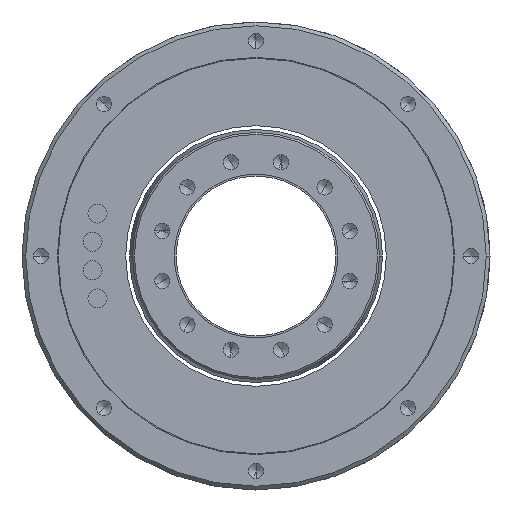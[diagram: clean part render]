
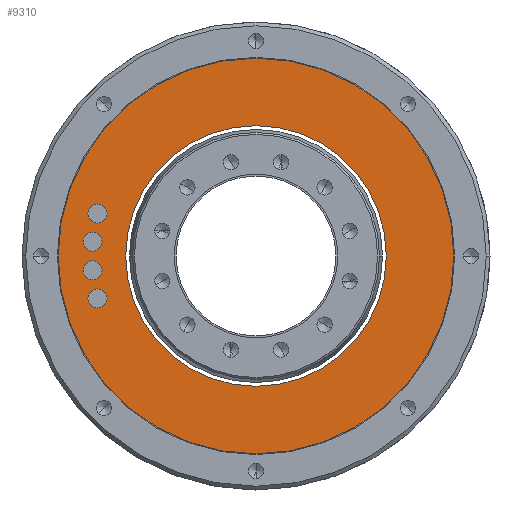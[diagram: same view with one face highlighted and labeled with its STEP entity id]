
A CAD part, left-side view. The second image highlights one B-rep face of the part: STEP entity #9310.
In plain terms, the highlighted planar face has unit normal (-1, 0, 0).
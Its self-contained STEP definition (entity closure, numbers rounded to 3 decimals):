
#8889=CARTESIAN_POINT('',(-93.,0.,0.));
#8890=DIRECTION('',(-1.,0.,0.));
#8891=DIRECTION('',(0.,1.,0.));
#8892=AXIS2_PLACEMENT_3D('',#8889,#8890,#8891);
#8894=CARTESIAN_POINT('',(-93.,0.,0.));
#8895=DIRECTION('',(1.,0.,0.));
#8896=DIRECTION('',(0.,1.,0.));
#8897=AXIS2_PLACEMENT_3D('',#8894,#8895,#8896);
#8899=CARTESIAN_POINT('',(-93.,0.,0.));
#8900=DIRECTION('',(-1.,0.,0.));
#8901=DIRECTION('',(0.,1.,0.));
#8902=AXIS2_PLACEMENT_3D('',#8899,#8900,#8901);
#8904=CARTESIAN_POINT('',(-93.,0.,0.));
#8905=DIRECTION('',(1.,0.,0.));
#8906=DIRECTION('',(0.,1.,0.));
#8907=AXIS2_PLACEMENT_3D('',#8904,#8905,#8906);
#8909=CARTESIAN_POINT('',(-93.,41.656,-11.162));
#8910=DIRECTION('',(-1.,0.,0.));
#8911=DIRECTION('',(0.,0.,1.));
#8912=AXIS2_PLACEMENT_3D('',#8909,#8910,#8911);
#8914=CARTESIAN_POINT('',(-93.,41.656,-11.162));
#8915=DIRECTION('',(-1.,0.,0.));
#8916=DIRECTION('',(0.,0.,-1.));
#8917=AXIS2_PLACEMENT_3D('',#8914,#8915,#8916);
#8919=CARTESIAN_POINT('',(-93.,41.656,11.162));
#8920=DIRECTION('',(-1.,0.,0.));
#8921=DIRECTION('',(0.,0.,1.));
#8922=AXIS2_PLACEMENT_3D('',#8919,#8920,#8921);
#8924=CARTESIAN_POINT('',(-93.,41.656,11.162));
#8925=DIRECTION('',(-1.,0.,0.));
#8926=DIRECTION('',(0.,0.,-1.));
#8927=AXIS2_PLACEMENT_3D('',#8924,#8925,#8926);
#8929=CARTESIAN_POINT('',(-93.,42.961,3.759));
#8930=DIRECTION('',(-1.,0.,0.));
#8931=DIRECTION('',(0.,0.,1.));
#8932=AXIS2_PLACEMENT_3D('',#8929,#8930,#8931);
#8934=CARTESIAN_POINT('',(-93.,42.961,3.759));
#8935=DIRECTION('',(-1.,0.,0.));
#8936=DIRECTION('',(0.,0.,-1.));
#8937=AXIS2_PLACEMENT_3D('',#8934,#8935,#8936);
#8939=CARTESIAN_POINT('',(-93.,42.961,-3.759));
#8940=DIRECTION('',(-1.,0.,0.));
#8941=DIRECTION('',(0.,0.,1.));
#8942=AXIS2_PLACEMENT_3D('',#8939,#8940,#8941);
#8944=CARTESIAN_POINT('',(-93.,42.961,-3.759));
#8945=DIRECTION('',(-1.,0.,0.));
#8946=DIRECTION('',(0.,0.,-1.));
#8947=AXIS2_PLACEMENT_3D('',#8944,#8945,#8946);
#9098=CARTESIAN_POINT('',(-93.,52.,0.));
#9100=VERTEX_POINT('',#9098);
#9101=CARTESIAN_POINT('',(-93.,34.25,0.));
#9103=VERTEX_POINT('',#9101);
#9118=CARTESIAN_POINT('',(-93.,-52.,0.));
#9120=VERTEX_POINT('',#9118);
#9121=CARTESIAN_POINT('',(-93.,-34.25,0.));
#9123=VERTEX_POINT('',#9121);
#9153=CARTESIAN_POINT('',(-93.,41.656,-8.662));
#9154=CARTESIAN_POINT('',(-93.,41.656,-13.662));
#9155=VERTEX_POINT('',#9153);
#9156=VERTEX_POINT('',#9154);
#9157=CARTESIAN_POINT('',(-93.,41.656,13.662));
#9158=CARTESIAN_POINT('',(-93.,41.656,8.662));
#9159=VERTEX_POINT('',#9157);
#9160=VERTEX_POINT('',#9158);
#9161=CARTESIAN_POINT('',(-93.,42.961,6.259));
#9162=CARTESIAN_POINT('',(-93.,42.961,1.259));
#9163=VERTEX_POINT('',#9161);
#9164=VERTEX_POINT('',#9162);
#9165=CARTESIAN_POINT('',(-93.,42.961,-1.259));
#9166=CARTESIAN_POINT('',(-93.,42.961,-6.259));
#9167=VERTEX_POINT('',#9165);
#9168=VERTEX_POINT('',#9166);
#9271=CARTESIAN_POINT('',(-93.,0.,0.));
#9272=DIRECTION('',(1.,0.,0.));
#9273=DIRECTION('',(0.,-1.,0.));
#9274=AXIS2_PLACEMENT_3D('',#9271,#9272,#9273);
#9275=PLANE('',#9274);
#9277=ORIENTED_EDGE('',*,*,#9276,.F.);
#9279=ORIENTED_EDGE('',*,*,#9278,.T.);
#9280=EDGE_LOOP('',(#9277,#9279));
#9281=FACE_OUTER_BOUND('',#9280,.F.);
#9282=ORIENTED_EDGE('',*,*,#9264,.F.);
#9283=ORIENTED_EDGE('',*,*,#9253,.T.);
#9284=EDGE_LOOP('',(#9282,#9283));
#9285=FACE_BOUND('',#9284,.F.);
#9287=ORIENTED_EDGE('',*,*,#9286,.T.);
#9289=ORIENTED_EDGE('',*,*,#9288,.T.);
#9290=EDGE_LOOP('',(#9287,#9289));
#9291=FACE_BOUND('',#9290,.F.);
#9293=ORIENTED_EDGE('',*,*,#9292,.T.);
#9295=ORIENTED_EDGE('',*,*,#9294,.T.);
#9296=EDGE_LOOP('',(#9293,#9295));
#9297=FACE_BOUND('',#9296,.F.);
#9299=ORIENTED_EDGE('',*,*,#9298,.T.);
#9301=ORIENTED_EDGE('',*,*,#9300,.T.);
#9302=EDGE_LOOP('',(#9299,#9301));
#9303=FACE_BOUND('',#9302,.F.);
#9305=ORIENTED_EDGE('',*,*,#9304,.T.);
#9307=ORIENTED_EDGE('',*,*,#9306,.T.);
#9308=EDGE_LOOP('',(#9305,#9307));
#9309=FACE_BOUND('',#9308,.F.);
#9310=ADVANCED_FACE('',(#9281,#9285,#9291,#9297,#9303,#9309),#9275,.F.);
#8893=CIRCLE('',#8892,34.25);
#8898=CIRCLE('',#8897,34.25);
#8903=CIRCLE('',#8902,52.);
#8908=CIRCLE('',#8907,52.);
#8913=CIRCLE('',#8912,2.5);
#8918=CIRCLE('',#8917,2.5);
#8923=CIRCLE('',#8922,2.5);
#8928=CIRCLE('',#8927,2.5);
#8933=CIRCLE('',#8932,2.5);
#8938=CIRCLE('',#8937,2.5);
#8943=CIRCLE('',#8942,2.5);
#8948=CIRCLE('',#8947,2.5);
#9253=EDGE_CURVE('',#9103,#9123,#8893,.T.);
#9264=EDGE_CURVE('',#9103,#9123,#8898,.T.);
#9276=EDGE_CURVE('',#9100,#9120,#8903,.T.);
#9278=EDGE_CURVE('',#9100,#9120,#8908,.T.);
#9286=EDGE_CURVE('',#9155,#9156,#8913,.T.);
#9288=EDGE_CURVE('',#9156,#9155,#8918,.T.);
#9292=EDGE_CURVE('',#9159,#9160,#8923,.T.);
#9294=EDGE_CURVE('',#9160,#9159,#8928,.T.);
#9298=EDGE_CURVE('',#9163,#9164,#8933,.T.);
#9300=EDGE_CURVE('',#9164,#9163,#8938,.T.);
#9304=EDGE_CURVE('',#9167,#9168,#8943,.T.);
#9306=EDGE_CURVE('',#9168,#9167,#8948,.T.);
